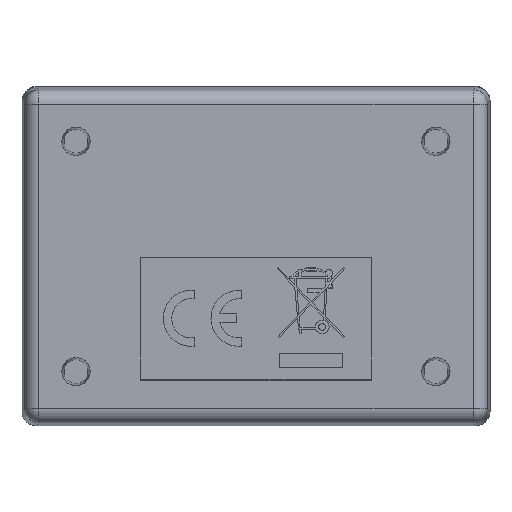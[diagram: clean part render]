
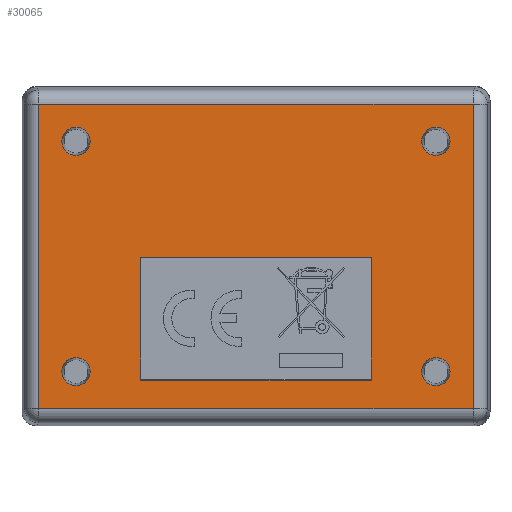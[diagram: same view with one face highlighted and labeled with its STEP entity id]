
A CAD part, front view. The second image highlights one B-rep face of the part: STEP entity #30065.
In plain terms, the highlighted planar face has unit normal (0, -1, 0) as drawn and (0, 0, -1) by its records, which use the part's own axes.
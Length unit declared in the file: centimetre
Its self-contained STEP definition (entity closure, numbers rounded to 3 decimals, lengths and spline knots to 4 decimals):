
#15148=VECTOR('',#39978,1.);
#15151=VECTOR('',#39982,1.);
#15154=VECTOR('',#39986,1.);
#15157=VECTOR('',#39990,1.);
#15318=VECTOR('',#40223,1.);
#15319=VECTOR('',#40224,1.);
#15320=VECTOR('',#40225,1.);
#15321=VECTOR('',#40226,1.);
#17064=LINE('',#33359,#15148);
#17067=LINE('',#33365,#15151);
#17070=LINE('',#33371,#15154);
#17073=LINE('',#33376,#15157);
#17234=LINE('',#34451,#15318);
#17235=LINE('',#34454,#15319);
#17236=LINE('',#34456,#15320);
#17237=LINE('',#34458,#15321);
#18718=PLANE('',#30954);
#19562=VERTEX_POINT('',#33358);
#19563=VERTEX_POINT('',#33360);
#19565=VERTEX_POINT('',#33366);
#19567=VERTEX_POINT('',#33372);
#19688=VERTEX_POINT('',#34444);
#19689=VERTEX_POINT('',#34446);
#19690=VERTEX_POINT('',#34448);
#19691=VERTEX_POINT('',#34450);
#19692=VERTEX_POINT('',#34452);
#19693=VERTEX_POINT('',#34453);
#19694=VERTEX_POINT('',#34455);
#19695=VERTEX_POINT('',#34457);
#20757=CIRCLE('',#30955,0.1249);
#20758=CIRCLE('',#30956,0.1249);
#20759=CIRCLE('',#30957,0.1249);
#20760=CIRCLE('',#30958,0.1249);
#21454=EDGE_CURVE('',#19563,#19562,#17064,.F.);
#21457=EDGE_CURVE('',#19565,#19563,#17067,.F.);
#21460=EDGE_CURVE('',#19567,#19565,#17070,.F.);
#21463=EDGE_CURVE('',#19562,#19567,#17073,.F.);
#21644=EDGE_CURVE('',#19688,#19688,#20757,.F.);
#21645=EDGE_CURVE('',#19689,#19689,#20758,.F.);
#21646=EDGE_CURVE('',#19690,#19690,#20759,.F.);
#21647=EDGE_CURVE('',#19691,#19691,#20760,.F.);
#21648=EDGE_CURVE('',#19692,#19693,#17234,.T.);
#21649=EDGE_CURVE('',#19694,#19692,#17235,.T.);
#21650=EDGE_CURVE('',#19695,#19694,#17236,.T.);
#21651=EDGE_CURVE('',#19693,#19695,#17237,.T.);
#24674=ORIENTED_EDGE('',*,*,#21644,.T.);
#24675=ORIENTED_EDGE('',*,*,#21645,.T.);
#24676=ORIENTED_EDGE('',*,*,#21646,.T.);
#24677=ORIENTED_EDGE('',*,*,#21647,.T.);
#24678=ORIENTED_EDGE('',*,*,#21648,.F.);
#24679=ORIENTED_EDGE('',*,*,#21649,.F.);
#24680=ORIENTED_EDGE('',*,*,#21650,.F.);
#24681=ORIENTED_EDGE('',*,*,#21651,.F.);
#24682=ORIENTED_EDGE('',*,*,#21454,.T.);
#24683=ORIENTED_EDGE('',*,*,#21463,.T.);
#24684=ORIENTED_EDGE('',*,*,#21460,.T.);
#24685=ORIENTED_EDGE('',*,*,#21457,.T.);
#28144=EDGE_LOOP('',(#24674));
#28145=EDGE_LOOP('',(#24675));
#28146=EDGE_LOOP('',(#24676));
#28147=EDGE_LOOP('',(#24677));
#28148=EDGE_LOOP('',(#24678,#24679,#24680,#24681));
#28149=EDGE_LOOP('',(#24682,#24683,#24684,#24685));
#29118=FACE_BOUND('',#28144,.T.);
#29119=FACE_BOUND('',#28145,.T.);
#29120=FACE_BOUND('',#28146,.T.);
#29121=FACE_BOUND('',#28147,.T.);
#29122=FACE_BOUND('',#28148,.T.);
#29123=FACE_BOUND('',#28149,.T.);
#30065=ADVANCED_FACE('',(#29118,#29119,#29120,#29121,#29122,#29123),#18718,
 .F.);
#30954=AXIS2_PLACEMENT_3D('',#34442,#40214,$);
#30955=AXIS2_PLACEMENT_3D('',#34443,#40215,#40216);
#30956=AXIS2_PLACEMENT_3D('',#34445,#40217,#40218);
#30957=AXIS2_PLACEMENT_3D('',#34447,#40219,#40220);
#30958=AXIS2_PLACEMENT_3D('',#34449,#40221,#40222);
#33358=CARTESIAN_POINT('',(1.091,-1.0176,-0.0032));
#33359=CARTESIAN_POINT('',(0.1374,-1.0176,-0.0032));
#33360=CARTESIAN_POINT('',(0.0083,-1.0176,-0.0032));
#33365=CARTESIAN_POINT('',(0.0083,0.,-0.0032));
#33366=CARTESIAN_POINT('',(0.0083,1.0176,-0.0032));
#33371=CARTESIAN_POINT('',(0.1374,1.0176,-0.0032));
#33372=CARTESIAN_POINT('',(1.091,1.0176,-0.0032));
#33376=CARTESIAN_POINT('',(1.091,0.,-0.0032));
#34442=CARTESIAN_POINT('',(0.,0.,-0.0032));
#34443=CARTESIAN_POINT('',(1.016,1.5875,-0.0032));
#34444=CARTESIAN_POINT('',(1.1409,1.5875,-0.0032));
#34445=CARTESIAN_POINT('',(1.016,-1.5875,-0.0032));
#34446=CARTESIAN_POINT('',(1.1409,-1.5875,-0.0032));
#34447=CARTESIAN_POINT('',(-1.016,-1.5875,-0.0032));
#34448=CARTESIAN_POINT('',(-0.8911,-1.5875,-0.0032));
#34449=CARTESIAN_POINT('',(-1.016,1.5875,-0.0032));
#34450=CARTESIAN_POINT('',(-0.8911,1.5875,-0.0032));
#34451=CARTESIAN_POINT('',(0.,1.9149,-0.0032));
#34452=CARTESIAN_POINT('',(1.3434,1.9149,-0.0032));
#34453=CARTESIAN_POINT('',(-1.3434,1.9149,-0.0032));
#34454=CARTESIAN_POINT('',(1.3434,0.,-0.0032));
#34455=CARTESIAN_POINT('',(1.3434,-1.9149,-0.0032));
#34456=CARTESIAN_POINT('',(0.,-1.9149,-0.0032));
#34457=CARTESIAN_POINT('',(-1.3434,-1.9149,-0.0032));
#34458=CARTESIAN_POINT('',(-1.3434,0.,-0.0032));
#39978=DIRECTION('',(-1.,0.,0.));
#39982=DIRECTION('',(0.,1.,0.));
#39986=DIRECTION('',(1.,0.,0.));
#39990=DIRECTION('',(0.,-1.,0.));
#40214=DIRECTION('',(0.,0.,1.));
#40215=DIRECTION('',(0.,0.,-1.));
#40216=DIRECTION('',(-0.125,0.,0.));
#40217=DIRECTION('',(0.,0.,-1.));
#40218=DIRECTION('',(-0.125,0.,0.));
#40219=DIRECTION('',(0.,0.,-1.));
#40220=DIRECTION('',(-0.125,0.,0.));
#40221=DIRECTION('',(0.,0.,-1.));
#40222=DIRECTION('',(-0.125,0.,0.));
#40223=DIRECTION('',(-1.,0.,0.));
#40224=DIRECTION('',(0.,1.,0.));
#40225=DIRECTION('',(1.,0.,0.));
#40226=DIRECTION('',(0.,-1.,0.));
